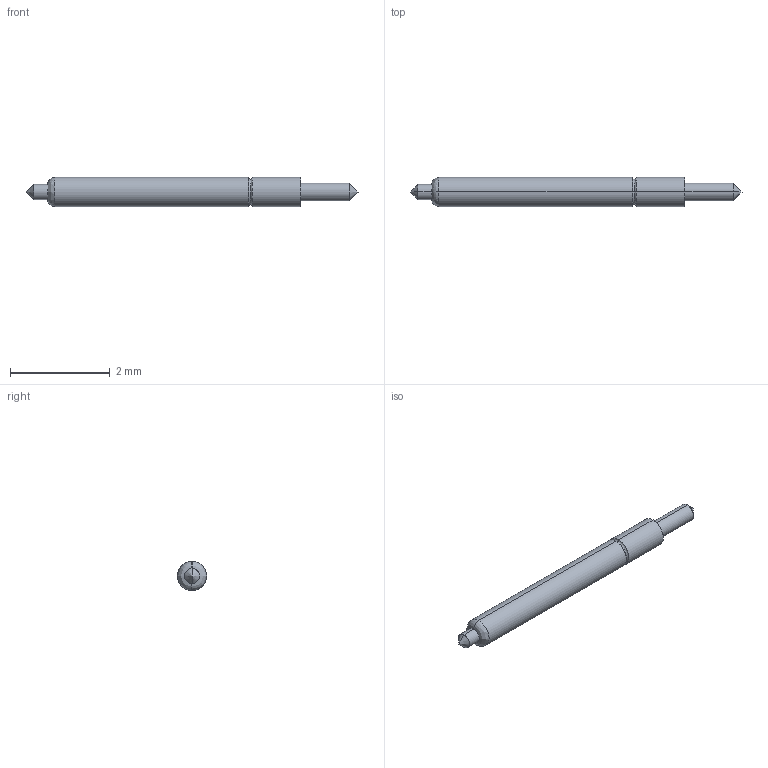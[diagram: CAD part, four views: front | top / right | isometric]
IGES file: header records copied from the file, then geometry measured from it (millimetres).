
Start section: SolidWorks IGES file using analytic representation for surfaces
Global section: file name: Z:\probe solid model mockups\Solidworks models\IGES Files\CSP8-20 IGES files\CSP8-20BB RECD.IGS; native system: SolidWorks 2006 by SolidWorks Corporation; preprocessor: SolidWorks 2006 by SolidWorks Corporation; author: tsakatani; date: 080108.152843; units: inch
Bounding box: 6.65 x 0.58 x 0.58 mm (x, y, z)
Surface area: 11.2 mm2 (no closed solid volume)
Topology: 0 solids, 0 shells, 19 faces, 104 edges, 100 vertices
Faces by surface type: revolution 12, bspline 7
